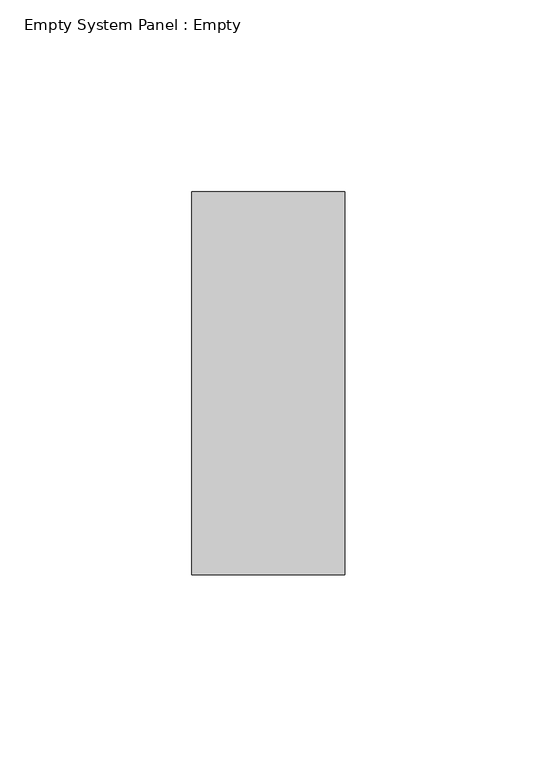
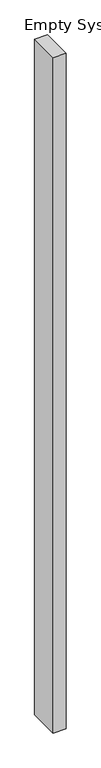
"""IFC4 building model written with IfcOpenShell, lengths in millimetres: plate geometry, Empty System Panel : Empty."""

from ifc_helpers import new_model, si_unit, origin, origin_with_axes, place, context, project, spatial, polyline, outline, extrude, source, transform, mapped, element, save


def empty_system_panel_empty_0af53769(model_context):
    return source(origin(), model_context, "Body", "SweptSolid", [
        extrude(outline(polyline([(19.9999998, -150.0), (-19.9999998, -150.0), (-19.9999998, -50.0), (19.9999998, -50.0), (19.9999998, -150.0)])), origin_with_axes(), (0.0, 0.0, 1.0), 2225.0),
    ])


if __name__ == "__main__":
    model = new_model("IFC4")
    model_context = context("Model", 3, world=origin())
    ifc_project = project(units=[si_unit("LENGTHUNIT", "METRE", prefix="MILLI")], contexts=[model_context])
    site = spatial("IfcSite", under=ifc_project)
    building = spatial("IfcBuilding", under=site)
    placement = place(None, origin())
    empty_system_panel_empty_shape = empty_system_panel_empty_0af53769(model_context)
    element("IfcPlate", 1, ObjectType="Empty System Panel : Empty", at=placement, inside=building, context=model_context, shape_type="MappedRepresentation", body=[
        mapped(empty_system_panel_empty_shape, transform((0.0, 0.0, 0.0), x_axis=(1.0, 0.0, 0.0), y_axis=(0.0, 1.0, 0.0), z_axis=(0.0, 0.0, 1.0))),
    ])
    save(model, "model.ifc")
